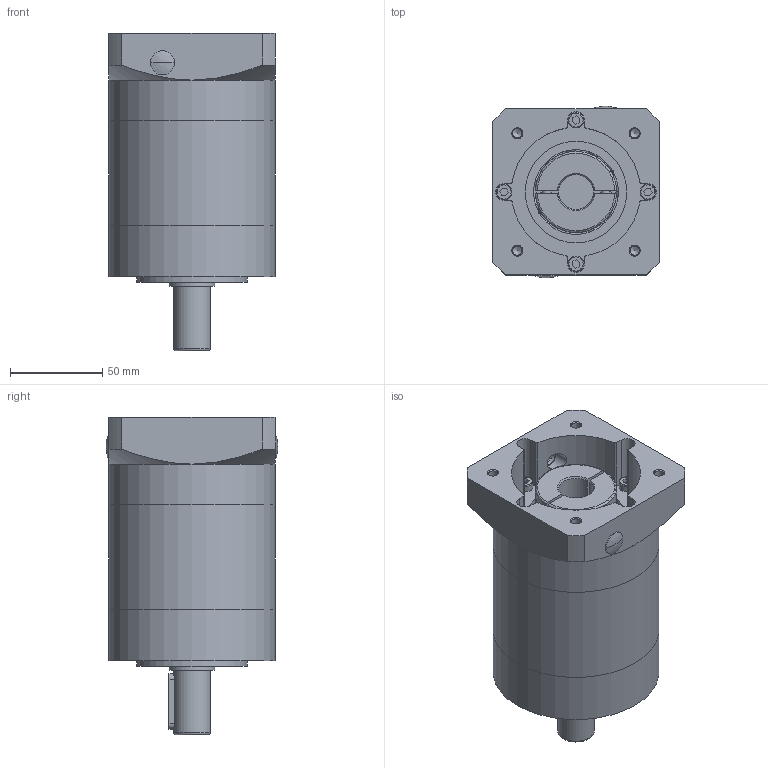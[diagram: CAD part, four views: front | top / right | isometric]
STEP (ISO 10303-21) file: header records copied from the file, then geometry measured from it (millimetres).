
FILE_DESCRIPTION(/* description */ (''),/* implementation_level */ '2;1');
FILE_NAME(/* name */ 'NE-090-L2(19-70-90-M6)(输出轴Φ20）.stp',/* time_stamp */ '2021-11-24T14:57:59+08:00',/* author */ (''),/* organization */ (''),/* preprocessor_version */ 'ST-DEVELOPER v16',/* originating_system */ 'SIEMENS PLM Software NX 10.0',/* authorisation */ '');
FILE_SCHEMA (('AP203_CONFIGURATION_CONTROLLED_3D_DESIGN_OF_MECHANICAL_PARTS_AND_ASSEMBLIES_MIM_LF { 1 0 10303 403 2 1 2}'));
Length unit declared in the file: millimetre
Products named in the file (1): 25BCED220gvc
Bounding box: 90 x 93 x 172.1 mm (x, y, z)
Volume: 671851 mm3; surface area: 156291.8 mm2
Topology: 10 solids, 13 shells, 805 faces, 2324 edges, 1556 vertices
Faces by surface type: plane 273, cylinder 220, sphere 160, torus 104, cone 42, bspline 6
Full cylindrical faces by diameter (mm): 4.2 x8, 5 x11, 5.5 x8, 9 x4, 10 x4, 19 x1, 20 x1, 25 x1, 28 x1, 37 x1, 38 x2, 39 x1, 48 x1, 52 x1, 55 x2, 60 x1, 62 x2, 65 x1, 72 x2, 90 x3
Entity records: 31297 total; most frequent: CARTESIAN_POINT 10692, ORIENTED_EDGE 4324, DIRECTION 4237, EDGE_CURVE 2162, AXIS2_PLACEMENT_3D 1844, VERTEX_POINT 1506, CIRCLE 1045, EDGE_LOOP 1023
